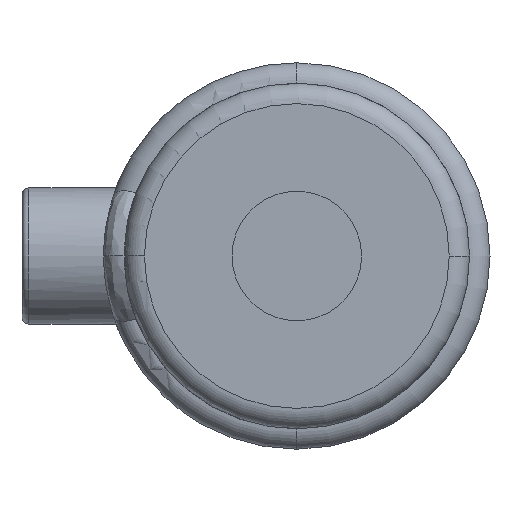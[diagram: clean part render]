
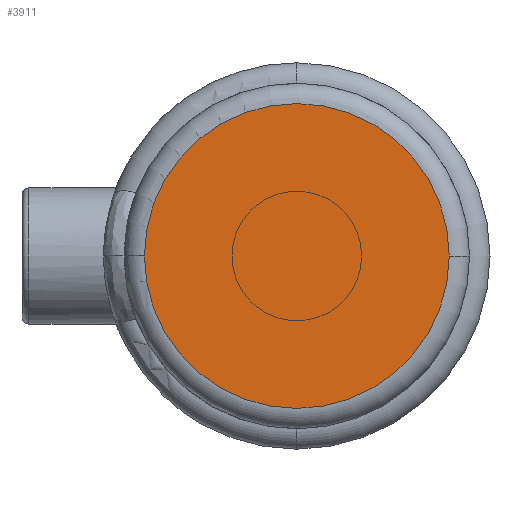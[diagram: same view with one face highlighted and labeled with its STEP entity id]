
A CAD part, left-side view. The second image highlights one B-rep face of the part: STEP entity #3911.
In plain terms, the highlighted planar face has unit normal (-1, 0, 0).
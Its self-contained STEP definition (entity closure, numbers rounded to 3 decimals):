
#358 = DIRECTION ( 'NONE',  ( -1., 0., 0. ) ) ;
#777 = DIRECTION ( 'NONE',  ( 0., -1., 0. ) ) ;
#948 = CARTESIAN_POINT ( 'NONE',  ( 0., 0., 0. ) ) ;
#1066 = EDGE_CURVE ( 'NONE', #3663, #3429, #2153, .T. ) ;
#1117 = EDGE_LOOP ( 'NONE', ( #2630, #4127 ) ) ;
#1203 = AXIS2_PLACEMENT_3D ( 'NONE', #948, #3304, #1289 ) ;
#1289 = DIRECTION ( 'NONE',  ( 0., -1., 0. ) ) ;
#1958 = FACE_OUTER_BOUND ( 'NONE', #1117, .T. ) ;
#2153 = CIRCLE ( 'NONE', #1203, 22.4 ) ;
#2317 = AXIS2_PLACEMENT_3D ( 'NONE', #3123, #2801, #777 ) ;
#2364 = CARTESIAN_POINT ( 'NONE',  ( 0., 0., 0. ) ) ;
#2566 = CIRCLE ( 'NONE', #3306, 22.4 ) ;
#2630 = ORIENTED_EDGE ( 'NONE', *, *, #3655, .T. ) ;
#2707 = DIRECTION ( 'NONE',  ( 0., -1., 0. ) ) ;
#2801 = DIRECTION ( 'NONE',  ( -1., 0., 0. ) ) ;
#3023 = CARTESIAN_POINT ( 'NONE',  ( 0., -22.4, 0. ) ) ;
#3123 = CARTESIAN_POINT ( 'NONE',  ( 0., 0., 0. ) ) ;
#3304 = DIRECTION ( 'NONE',  ( -1., 0., 0. ) ) ;
#3306 = AXIS2_PLACEMENT_3D ( 'NONE', #2364, #358, #2707 ) ;
#3429 = VERTEX_POINT ( 'NONE', #3023 ) ;
#3445 = PLANE ( 'NONE',  #2317 ) ;
#3655 = EDGE_CURVE ( 'NONE', #3429, #3663, #2566, .T. ) ;
#3663 = VERTEX_POINT ( 'NONE', #3687 ) ;
#3687 = CARTESIAN_POINT ( 'NONE',  ( 0., 22.4, 0. ) ) ;
#3911 = ADVANCED_FACE ( 'NONE', ( #1958 ), #3445, .T. ) ;
#4127 = ORIENTED_EDGE ( 'NONE', *, *, #1066, .T. ) ;
